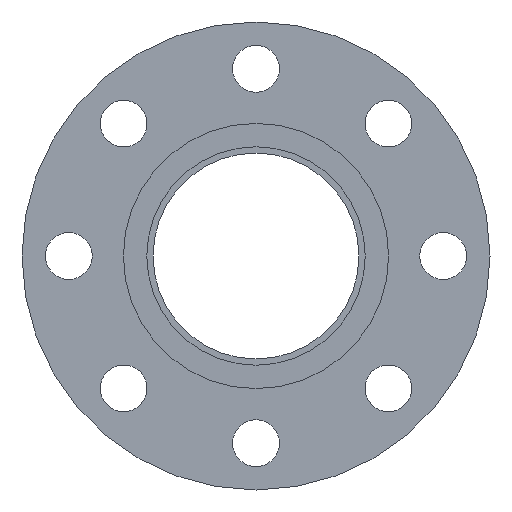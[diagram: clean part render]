
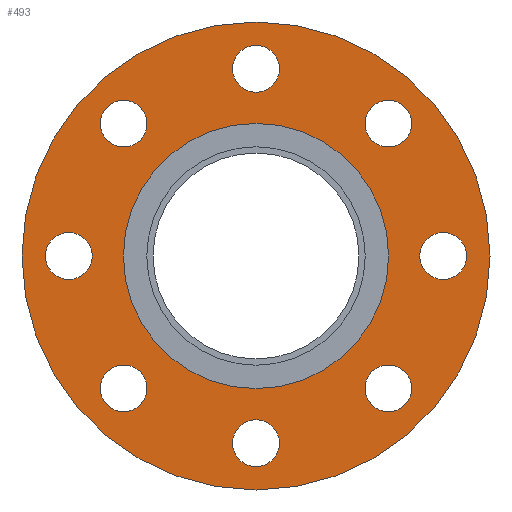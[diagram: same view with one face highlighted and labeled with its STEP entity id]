
A CAD part, left-side view. The second image highlights one B-rep face of the part: STEP entity #493.
In plain terms, the highlighted planar face has unit normal (-1, 0, 0).
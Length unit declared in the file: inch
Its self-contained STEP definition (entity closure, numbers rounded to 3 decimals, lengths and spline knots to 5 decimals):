
#49=FACE_BOUND('',#119,.T.);
#50=FACE_BOUND('',#120,.T.);
#51=FACE_BOUND('',#121,.T.);
#52=FACE_BOUND('',#122,.T.);
#53=FACE_BOUND('',#123,.T.);
#54=FACE_BOUND('',#124,.T.);
#55=FACE_BOUND('',#125,.T.);
#56=FACE_BOUND('',#126,.T.);
#57=FACE_BOUND('',#127,.T.);
#72=PLANE('',#571);
#92=FACE_OUTER_BOUND('',#118,.T.);
#118=EDGE_LOOP('',(#397,#398));
#119=EDGE_LOOP('',(#399));
#120=EDGE_LOOP('',(#400));
#121=EDGE_LOOP('',(#401));
#122=EDGE_LOOP('',(#402));
#123=EDGE_LOOP('',(#403));
#124=EDGE_LOOP('',(#404));
#125=EDGE_LOOP('',(#405));
#126=EDGE_LOOP('',(#406));
#127=EDGE_LOOP('',(#407,#408));
#173=CIRCLE('',#520,0.375);
#175=CIRCLE('',#523,0.375);
#177=CIRCLE('',#526,0.375);
#179=CIRCLE('',#529,0.375);
#181=CIRCLE('',#532,0.375);
#183=CIRCLE('',#535,0.375);
#185=CIRCLE('',#538,0.375);
#187=CIRCLE('',#541,0.375);
#206=CIRCLE('',#569,2.125);
#207=CIRCLE('',#570,2.125);
#208=CIRCLE('',#572,3.75);
#209=CIRCLE('',#573,3.75);
#217=VERTEX_POINT('',#776);
#219=VERTEX_POINT('',#782);
#221=VERTEX_POINT('',#788);
#223=VERTEX_POINT('',#794);
#225=VERTEX_POINT('',#800);
#227=VERTEX_POINT('',#806);
#229=VERTEX_POINT('',#812);
#231=VERTEX_POINT('',#818);
#250=VERTEX_POINT('',#870);
#251=VERTEX_POINT('',#871);
#252=VERTEX_POINT('',#876);
#253=VERTEX_POINT('',#877);
#262=EDGE_CURVE('',#217,#217,#173,.T.);
#265=EDGE_CURVE('',#219,#219,#175,.T.);
#268=EDGE_CURVE('',#221,#221,#177,.T.);
#271=EDGE_CURVE('',#223,#223,#179,.T.);
#274=EDGE_CURVE('',#225,#225,#181,.T.);
#277=EDGE_CURVE('',#227,#227,#183,.T.);
#280=EDGE_CURVE('',#229,#229,#185,.T.);
#283=EDGE_CURVE('',#231,#231,#187,.T.);
#306=EDGE_CURVE('',#250,#251,#206,.T.);
#307=EDGE_CURVE('',#251,#250,#207,.T.);
#309=EDGE_CURVE('',#252,#253,#208,.T.);
#310=EDGE_CURVE('',#253,#252,#209,.T.);
#397=ORIENTED_EDGE('',*,*,#309,.F.);
#398=ORIENTED_EDGE('',*,*,#310,.F.);
#399=ORIENTED_EDGE('',*,*,#262,.T.);
#400=ORIENTED_EDGE('',*,*,#265,.T.);
#401=ORIENTED_EDGE('',*,*,#268,.T.);
#402=ORIENTED_EDGE('',*,*,#271,.T.);
#403=ORIENTED_EDGE('',*,*,#274,.T.);
#404=ORIENTED_EDGE('',*,*,#277,.T.);
#405=ORIENTED_EDGE('',*,*,#280,.T.);
#406=ORIENTED_EDGE('',*,*,#283,.T.);
#407=ORIENTED_EDGE('',*,*,#306,.T.);
#408=ORIENTED_EDGE('',*,*,#307,.T.);
#493=ADVANCED_FACE('',(#92,#49,#50,#51,#52,#53,#54,#55,#56,#57),#72,.T.);
#520=AXIS2_PLACEMENT_3D('',#778,#604,#605);
#523=AXIS2_PLACEMENT_3D('',#784,#611,#612);
#526=AXIS2_PLACEMENT_3D('',#790,#618,#619);
#529=AXIS2_PLACEMENT_3D('',#796,#625,#626);
#532=AXIS2_PLACEMENT_3D('',#802,#632,#633);
#535=AXIS2_PLACEMENT_3D('',#808,#639,#640);
#538=AXIS2_PLACEMENT_3D('',#814,#646,#647);
#541=AXIS2_PLACEMENT_3D('',#820,#653,#654);
#569=AXIS2_PLACEMENT_3D('',#872,#713,#714);
#570=AXIS2_PLACEMENT_3D('',#873,#715,#716);
#571=AXIS2_PLACEMENT_3D('',#875,#718,#719);
#572=AXIS2_PLACEMENT_3D('',#878,#720,#721);
#573=AXIS2_PLACEMENT_3D('',#879,#722,#723);
#604=DIRECTION('center_axis',(1.,0.,0.));
#605=DIRECTION('ref_axis',(0.,0.707,0.707));
#611=DIRECTION('center_axis',(1.,0.,0.));
#612=DIRECTION('ref_axis',(0.,1.,0.));
#618=DIRECTION('center_axis',(1.,0.,0.));
#619=DIRECTION('ref_axis',(0.,0.707,-0.707));
#625=DIRECTION('center_axis',(1.,0.,0.));
#626=DIRECTION('ref_axis',(0.,0.,-1.));
#632=DIRECTION('center_axis',(1.,0.,0.));
#633=DIRECTION('ref_axis',(0.,-0.707,-0.707));
#639=DIRECTION('center_axis',(1.,0.,0.));
#640=DIRECTION('ref_axis',(0.,-1.,0.));
#646=DIRECTION('center_axis',(1.,0.,0.));
#647=DIRECTION('ref_axis',(0.,-0.707,0.707));
#653=DIRECTION('center_axis',(1.,0.,0.));
#654=DIRECTION('ref_axis',(0.,0.,1.));
#713=DIRECTION('center_axis',(1.,0.,0.));
#714=DIRECTION('ref_axis',(0.,0.,-1.));
#715=DIRECTION('center_axis',(1.,0.,0.));
#716=DIRECTION('ref_axis',(0.,0.,-1.));
#718=DIRECTION('center_axis',(-1.,0.,0.));
#719=DIRECTION('ref_axis',(0.,0.,1.));
#720=DIRECTION('center_axis',(1.,0.,0.));
#721=DIRECTION('ref_axis',(0.,0.,-1.));
#722=DIRECTION('center_axis',(1.,0.,0.));
#723=DIRECTION('ref_axis',(0.,0.,-1.));
#776=CARTESIAN_POINT('',(-0.9425,1.85616,-2.38649));
#778=CARTESIAN_POINT('Origin',(-0.9425,2.12132,-2.12132));
#782=CARTESIAN_POINT('',(-0.9425,-0.375,-3.));
#784=CARTESIAN_POINT('Origin',(-0.9425,0.,-3.));
#788=CARTESIAN_POINT('',(-0.9425,-2.38649,-1.85616));
#790=CARTESIAN_POINT('Origin',(-0.9425,-2.12132,-2.12132));
#794=CARTESIAN_POINT('',(-0.9425,-3.,0.375));
#796=CARTESIAN_POINT('Origin',(-0.9425,-3.,0.));
#800=CARTESIAN_POINT('',(-0.9425,-1.85616,2.38649));
#802=CARTESIAN_POINT('Origin',(-0.9425,-2.12132,2.12132));
#806=CARTESIAN_POINT('',(-0.9425,0.375,3.));
#808=CARTESIAN_POINT('Origin',(-0.9425,0.,3.));
#812=CARTESIAN_POINT('',(-0.9425,2.38649,1.85616));
#814=CARTESIAN_POINT('Origin',(-0.9425,2.12132,2.12132));
#818=CARTESIAN_POINT('',(-0.9425,3.,-0.375));
#820=CARTESIAN_POINT('Origin',(-0.9425,3.,0.));
#870=CARTESIAN_POINT('',(-0.9425,2.125,0.));
#871=CARTESIAN_POINT('',(-0.9425,-2.125,0.));
#872=CARTESIAN_POINT('Origin',(-0.9425,0.,
0.));
#873=CARTESIAN_POINT('Origin',(-0.9425,0.,
0.));
#875=CARTESIAN_POINT('Origin',(-0.9425,3.75,0.));
#876=CARTESIAN_POINT('',(-0.9425,3.75,0.));
#877=CARTESIAN_POINT('',(-0.9425,-3.75,0.));
#878=CARTESIAN_POINT('Origin',(-0.9425,0.,0.));
#879=CARTESIAN_POINT('Origin',(-0.9425,0.,0.));
